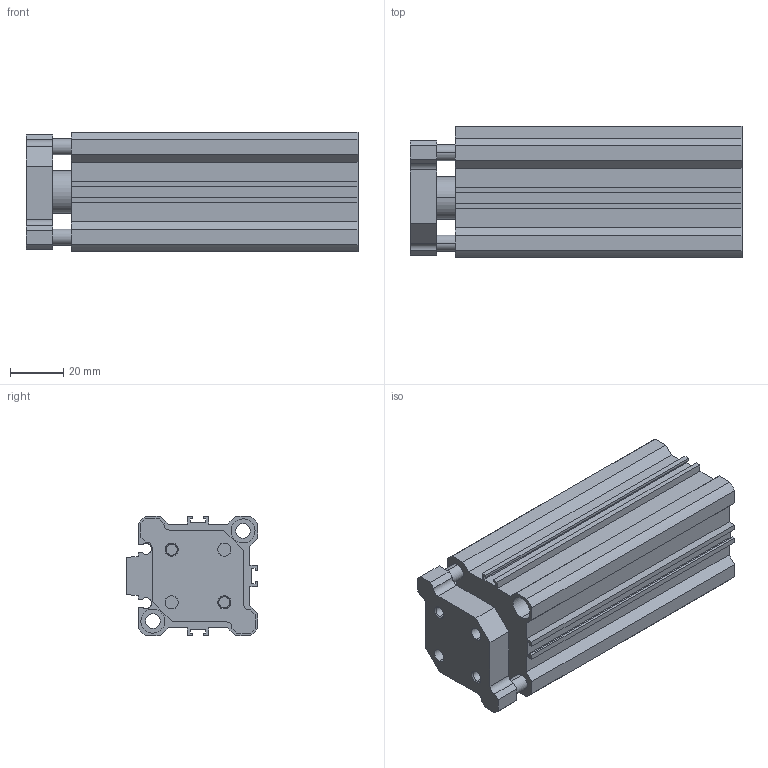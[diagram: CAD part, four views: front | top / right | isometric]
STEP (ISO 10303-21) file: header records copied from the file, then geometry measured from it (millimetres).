
FILE_DESCRIPTION (( 'STEP AP203' ), '1' );
FILE_NAME ('CCMG32-75.STEP', '2020-04-01T18:41:10', ( '' ), ( '' ), 'SwSTEP 2.0', 'SolidWorks 2019', '' );
FILE_SCHEMA (( 'CONFIG_CONTROL_DESIGN' ));
Length unit declared in the file: millimetre
Products named in the file (1): CCMG32-75
Bounding box: 125 x 49.5 x 45 mm (x, y, z)
Volume: 160778 mm3; surface area: 64062.3 mm2
Topology: 2 solids, 2 shells, 165 faces, 431 edges, 280 vertices
Faces by surface type: plane 92, cylinder 57, cone 16
Entity records: 5134 total; most frequent: DIRECTION 885, CARTESIAN_POINT 873, ORIENTED_EDGE 854, EDGE_CURVE 427, LINE 301, VECTOR 301, AXIS2_PLACEMENT_3D 292, VERTEX_POINT 280
